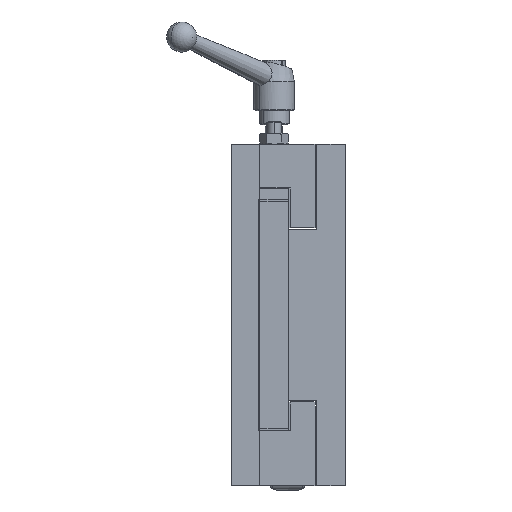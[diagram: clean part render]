
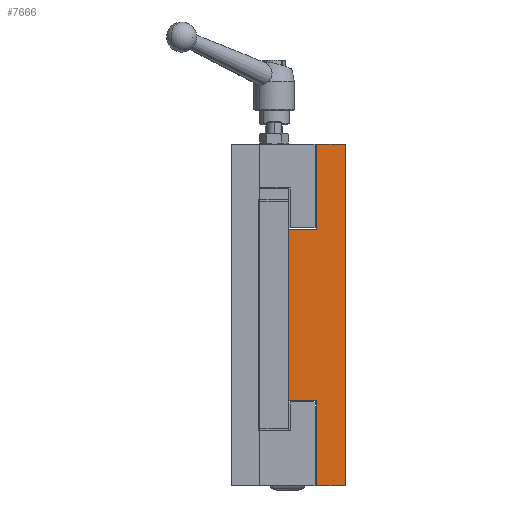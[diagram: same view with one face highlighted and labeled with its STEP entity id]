
A CAD part, left-side view. The second image highlights one B-rep face of the part: STEP entity #7666.
In plain terms, the highlighted planar face has unit normal (-1, 0, 0).
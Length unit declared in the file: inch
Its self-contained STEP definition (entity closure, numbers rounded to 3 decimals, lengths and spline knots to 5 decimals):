
#1546 = LINE ( 'NONE', #1556, #5663 ) ;
#1556 = CARTESIAN_POINT ( 'NONE',  ( 0., 1., 3. ) ) ;
#1557 = DIRECTION ( 'NONE',  ( 0., 0., 1. ) ) ;
#1569 = LINE ( 'NONE', #1589, #8268 ) ;
#1574 = LINE ( 'NONE', #1595, #8248 ) ;
#1585 = LINE ( 'NONE', #1587, #8271 ) ;
#1586 = LINE ( 'NONE', #1597, #8269 ) ;
#1587 = CARTESIAN_POINT ( 'NONE',  ( 0., 1., -1.5 ) ) ;
#1588 = DIRECTION ( 'NONE',  ( 0., -1., 0. ) ) ;
#1589 = CARTESIAN_POINT ( 'NONE',  ( 0., 0.5, -3. ) ) ;
#1590 = DIRECTION ( 'NONE',  ( 0., 0., -1. ) ) ;
#1591 = LINE ( 'NONE', #1593, #5979 ) ;
#1592 = LINE ( 'NONE', #1599, #6020 ) ;
#1593 = CARTESIAN_POINT ( 'NONE',  ( 0., 1., -3. ) ) ;
#1594 = DIRECTION ( 'NONE',  ( 0., 1., 0. ) ) ;
#1595 = CARTESIAN_POINT ( 'NONE',  ( 0., 0., 3. ) ) ;
#1596 = DIRECTION ( 'NONE',  ( 0., 0., -1. ) ) ;
#1597 = CARTESIAN_POINT ( 'NONE',  ( 0., 1., 3. ) ) ;
#1598 = DIRECTION ( 'NONE',  ( 0., -1., 0. ) ) ;
#1599 = CARTESIAN_POINT ( 'NONE',  ( 0., 0.5, 3. ) ) ;
#1600 = DIRECTION ( 'NONE',  ( 0., 0., -1. ) ) ;
#1601 = LINE ( 'NONE', #1602, #3961 ) ;
#1602 = CARTESIAN_POINT ( 'NONE',  ( 0., 1., 1.5 ) ) ;
#1603 = DIRECTION ( 'NONE',  ( 0., 1., 0. ) ) ;
#2203 = PLANE ( 'NONE',  #5790 ) ;
#2205 = CARTESIAN_POINT ( 'NONE',  ( 0., 0., 3. ) ) ;
#2209 = FACE_OUTER_BOUND ( 'NONE', #5616, .T. ) ;
#2211 = DIRECTION ( 'NONE',  ( 1., 0., 0. ) ) ;
#2212 = DIRECTION ( 'NONE',  ( 0., 0., -1. ) ) ;
#3843 = CARTESIAN_POINT ( 'NONE',  ( 0., 0.5, 1.5 ) ) ;
#3845 = CARTESIAN_POINT ( 'NONE',  ( 0., 0., 3. ) ) ;
#3847 = CARTESIAN_POINT ( 'NONE',  ( 0., 1., 1.5 ) ) ;
#3852 = CARTESIAN_POINT ( 'NONE',  ( 0., 1., -1.5 ) ) ;
#3961 = VECTOR ( 'NONE', #1603, 39.37008 ) ;
#4303 = VERTEX_POINT ( 'NONE', #3843 ) ;
#4305 = VERTEX_POINT ( 'NONE', #6554 ) ;
#4307 = VERTEX_POINT ( 'NONE', #6553 ) ;
#4312 = VERTEX_POINT ( 'NONE', #6549 ) ;
#4316 = VERTEX_POINT ( 'NONE', #3845 ) ;
#4320 = VERTEX_POINT ( 'NONE', #3847 ) ;
#4329 = VERTEX_POINT ( 'NONE', #3852 ) ;
#4652 = CARTESIAN_POINT ( 'NONE',  ( 0., 0., -3. ) ) ;
#5616 = EDGE_LOOP ( 'NONE', ( #8349, #8350, #8351, #8352, #8353, #8354, #8355, #8356 ) ) ;
#5663 = VECTOR ( 'NONE', #1557, 39.37008 ) ;
#5790 = AXIS2_PLACEMENT_3D ( 'NONE', #2205, #2211, #2212 ) ;
#5979 = VECTOR ( 'NONE', #1594, 39.37008 ) ;
#6020 = VECTOR ( 'NONE', #1600, 39.37008 ) ;
#6269 = VERTEX_POINT ( 'NONE', #4652 ) ;
#6549 = CARTESIAN_POINT ( 'NONE',  ( 0., 0.5, -1.5 ) ) ;
#6553 = CARTESIAN_POINT ( 'NONE',  ( 0., 0.5, 3. ) ) ;
#6554 = CARTESIAN_POINT ( 'NONE',  ( 0., 0.5, -3. ) ) ;
#7431 = EDGE_CURVE ( 'NONE', #4329, #4320, #1546, .T. ) ;
#7441 = EDGE_CURVE ( 'NONE', #4329, #4312, #1585, .T. ) ;
#7442 = EDGE_CURVE ( 'NONE', #4312, #4305, #1569, .T. ) ;
#7443 = EDGE_CURVE ( 'NONE', #6269, #4305, #1591, .T. ) ;
#7444 = EDGE_CURVE ( 'NONE', #4316, #6269, #1574, .T. ) ;
#7445 = EDGE_CURVE ( 'NONE', #4307, #4316, #1586, .T. ) ;
#7446 = EDGE_CURVE ( 'NONE', #4307, #4303, #1592, .T. ) ;
#7447 = EDGE_CURVE ( 'NONE', #4303, #4320, #1601, .T. ) ;
#7666 = ADVANCED_FACE ( 'NONE', ( #2209 ), #2203, .F. ) ;
#8248 = VECTOR ( 'NONE', #1596, 39.37008 ) ;
#8268 = VECTOR ( 'NONE', #1590, 39.37008 ) ;
#8269 = VECTOR ( 'NONE', #1598, 39.37008 ) ;
#8271 = VECTOR ( 'NONE', #1588, 39.37008 ) ;
#8349 = ORIENTED_EDGE ( 'NONE', *, *, #7441, .T. ) ;
#8350 = ORIENTED_EDGE ( 'NONE', *, *, #7442, .T. ) ;
#8351 = ORIENTED_EDGE ( 'NONE', *, *, #7443, .F. ) ;
#8352 = ORIENTED_EDGE ( 'NONE', *, *, #7444, .F. ) ;
#8353 = ORIENTED_EDGE ( 'NONE', *, *, #7445, .F. ) ;
#8354 = ORIENTED_EDGE ( 'NONE', *, *, #7446, .T. ) ;
#8355 = ORIENTED_EDGE ( 'NONE', *, *, #7447, .T. ) ;
#8356 = ORIENTED_EDGE ( 'NONE', *, *, #7431, .F. ) ;
